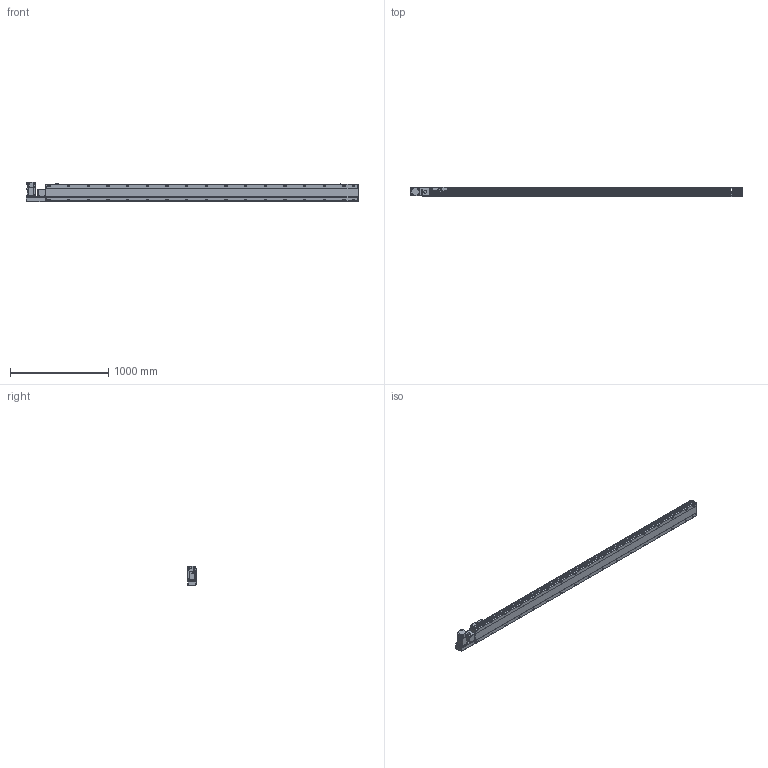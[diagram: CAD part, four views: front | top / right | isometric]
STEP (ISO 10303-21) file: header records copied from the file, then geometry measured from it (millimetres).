
FILE_DESCRIPTION( ( 'STEP AP214' ), '1' );
FILE_NAME( 'x:/temp/worker_3/temp/exporttempdir_5796_128_IDCWM/format_0/PBS170-P40-S2900-L-T75-C1-N(0).stp', '2022-06-07T06:59:25', ( 'License CC BY-ND 4.0' ), ( 'CADENAS' ), ' ', 'PARTsolutions', ' ' );
FILE_SCHEMA( ( 'AUTOMOTIVE_DESIGN { 1 0 10303 214 1 1 1 1 }' ) );
Length unit declared in the file: millimetre
Products named in the file (7): PBS170-P40-S2900-L-T75-C1-N(0); _PBS170-S2900()_body; _PBS170T-L_motors; _T75-p1; _PBS170_sliser; _PBS170_plant; _PBS170_sensor
Assembly tree (8 placements, depth 2):
  PBS170-P40-S2900-L-T75-C1-N(0)
    _PBS170-S2900()_body
    _PBS170T-L_motors
    _T75-p1
    _PBS170_sliser
    _PBS170_plant
    _PBS170_sensor  x3
Bounding box: 3378 x 97 x 197.3 mm (x, y, z)
Volume: 24527413.1 mm3; surface area: 3073959.7 mm2
Topology: 8 solids, 8 shells, 1226 faces, 3235 edges, 2108 vertices
Faces by surface type: plane 741, cylinder 411, cone 64, sphere 8, torus 2
Full cylindrical faces by diameter (mm): 3.242 x4, 4 x2, 4.4 x4, 4.5 x6, 4.917 x4, 6 x9, 6.647 x42, 7 x2, 7.5 x4, 8 x8, 8.5 x34, 10 x4, 10.5 x34, 11 x2, 30 x2, 40 x1, 70 x1
Entity records: 45518 total; most frequent: CARTESIAN_POINT 7733, DIRECTION 5930, ORIENTED_EDGE 5568, EDGE_CURVE 2784, AXIS2_PLACEMENT_3D 2107, VERTEX_POINT 1946, LINE 1716, VECTOR 1716
